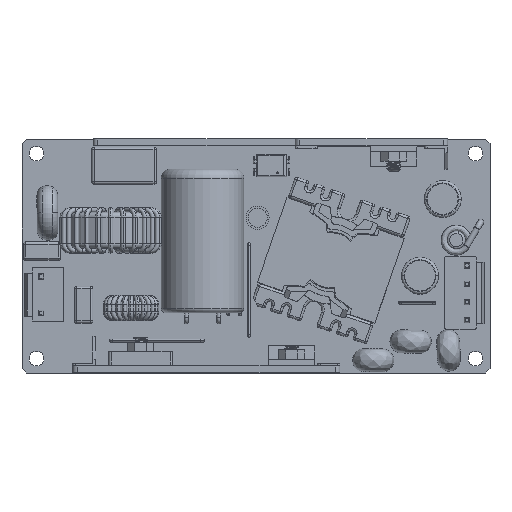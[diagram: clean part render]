
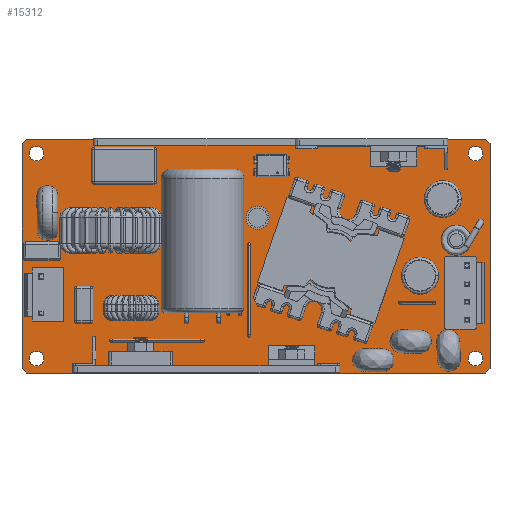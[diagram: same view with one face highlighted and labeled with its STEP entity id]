
A CAD part, top view. The second image highlights one B-rep face of the part: STEP entity #15312.
In plain terms, the highlighted planar face has unit normal (0, 0, 1).
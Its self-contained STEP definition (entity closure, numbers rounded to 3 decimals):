
#9217=LINE('',#91983,#12151);
#9218=LINE('',#91986,#12152);
#9219=LINE('',#91988,#12153);
#9220=LINE('',#91990,#12154);
#9221=LINE('',#91992,#12155);
#9222=LINE('',#91994,#12156);
#9223=LINE('',#91996,#12157);
#9224=LINE('',#91998,#12158);
#12151=VECTOR('',#64145,1.);
#12152=VECTOR('',#64146,1.);
#12153=VECTOR('',#64147,1.);
#12154=VECTOR('',#64148,1.);
#12155=VECTOR('',#64149,1.);
#12156=VECTOR('',#64150,1.);
#12157=VECTOR('',#64151,1.);
#12158=VECTOR('',#64152,1.);
#12789=FACE_BOUND('',#21255,.T.);
#12790=FACE_BOUND('',#21256,.T.);
#12791=FACE_BOUND('',#21257,.T.);
#12792=FACE_BOUND('',#21258,.T.);
#12793=FACE_BOUND('',#21259,.T.);
#15312=ADVANCED_FACE('',(#12789,#12790,#12791,#12792,#12793),#16165,.T.);
#16165=PLANE('',#50904);
#21255=EDGE_LOOP('',(#33313,#33314,#33315,#33316,#33317,#33318,#33319,#33320));
#21256=EDGE_LOOP('',(#33321,#33322));
#21257=EDGE_LOOP('',(#33323,#33324));
#21258=EDGE_LOOP('',(#33325,#33326));
#21259=EDGE_LOOP('',(#33327,#33328));
#33313=ORIENTED_EDGE('',*,*,#43055,.T.);
#33314=ORIENTED_EDGE('',*,*,#43056,.T.);
#33315=ORIENTED_EDGE('',*,*,#43057,.T.);
#33316=ORIENTED_EDGE('',*,*,#43058,.T.);
#33317=ORIENTED_EDGE('',*,*,#43059,.T.);
#33318=ORIENTED_EDGE('',*,*,#43060,.T.);
#33319=ORIENTED_EDGE('',*,*,#43061,.T.);
#33320=ORIENTED_EDGE('',*,*,#43062,.T.);
#33321=ORIENTED_EDGE('',*,*,#43063,.F.);
#33322=ORIENTED_EDGE('',*,*,#43064,.F.);
#33323=ORIENTED_EDGE('',*,*,#43065,.F.);
#33324=ORIENTED_EDGE('',*,*,#43066,.F.);
#33325=ORIENTED_EDGE('',*,*,#43067,.F.);
#33326=ORIENTED_EDGE('',*,*,#43068,.F.);
#33327=ORIENTED_EDGE('',*,*,#43069,.F.);
#33328=ORIENTED_EDGE('',*,*,#43070,.F.);
#37007=VERTEX_POINT('',#91984);
#37008=VERTEX_POINT('',#91985);
#37009=VERTEX_POINT('',#91987);
#37010=VERTEX_POINT('',#91989);
#37011=VERTEX_POINT('',#91991);
#37012=VERTEX_POINT('',#91993);
#37013=VERTEX_POINT('',#91995);
#37014=VERTEX_POINT('',#91997);
#37015=VERTEX_POINT('',#92000);
#37016=VERTEX_POINT('',#92001);
#37017=VERTEX_POINT('',#92004);
#37018=VERTEX_POINT('',#92005);
#37019=VERTEX_POINT('',#92008);
#37020=VERTEX_POINT('',#92009);
#37021=VERTEX_POINT('',#92012);
#37022=VERTEX_POINT('',#92013);
#43055=EDGE_CURVE('',#37007,#37008,#9217,.T.);
#43056=EDGE_CURVE('',#37008,#37009,#9218,.T.);
#43057=EDGE_CURVE('',#37009,#37010,#9219,.T.);
#43058=EDGE_CURVE('',#37010,#37011,#9220,.T.);
#43059=EDGE_CURVE('',#37011,#37012,#9221,.T.);
#43060=EDGE_CURVE('',#37012,#37013,#9222,.T.);
#43061=EDGE_CURVE('',#37013,#37014,#9223,.T.);
#43062=EDGE_CURVE('',#37014,#37007,#9224,.T.);
#43063=EDGE_CURVE('',#37015,#37016,#45747,.T.);
#43064=EDGE_CURVE('',#37016,#37015,#45748,.T.);
#43065=EDGE_CURVE('',#37017,#37018,#45749,.T.);
#43066=EDGE_CURVE('',#37018,#37017,#45750,.T.);
#43067=EDGE_CURVE('',#37019,#37020,#45751,.T.);
#43068=EDGE_CURVE('',#37020,#37019,#45752,.T.);
#43069=EDGE_CURVE('',#37021,#37022,#45753,.T.);
#43070=EDGE_CURVE('',#37022,#37021,#45754,.T.);
#45747=CIRCLE('',#50896,1.6);
#45748=CIRCLE('',#50897,1.6);
#45749=CIRCLE('',#50898,1.6);
#45750=CIRCLE('',#50899,1.6);
#45751=CIRCLE('',#50900,1.6);
#45752=CIRCLE('',#50901,1.6);
#45753=CIRCLE('',#50902,1.6);
#45754=CIRCLE('',#50903,1.6);
#50896=AXIS2_PLACEMENT_3D('',#91999,#64153,#64154);
#50897=AXIS2_PLACEMENT_3D('',#92002,#64155,#64156);
#50898=AXIS2_PLACEMENT_3D('',#92003,#64157,#64158);
#50899=AXIS2_PLACEMENT_3D('',#92006,#64159,#64160);
#50900=AXIS2_PLACEMENT_3D('',#92007,#64161,#64162);
#50901=AXIS2_PLACEMENT_3D('',#92010,#64163,#64164);
#50902=AXIS2_PLACEMENT_3D('',#92011,#64165,#64166);
#50903=AXIS2_PLACEMENT_3D('',#92014,#64167,#64168);
#50904=AXIS2_PLACEMENT_3D('',#92015,#64169,#64170);
#64145=DIRECTION('',(0.,1.,0.));
#64146=DIRECTION('',(-0.707,0.707,0.));
#64147=DIRECTION('',(-1.,0.,0.));
#64148=DIRECTION('',(-0.707,-0.707,0.));
#64149=DIRECTION('',(0.,-1.,0.));
#64150=DIRECTION('',(0.707,-0.707,0.));
#64151=DIRECTION('',(1.,0.,0.));
#64152=DIRECTION('',(0.707,0.707,0.));
#64153=DIRECTION('',(0.,0.,1.));
#64154=DIRECTION('',(-1.,0.,0.));
#64155=DIRECTION('',(0.,0.,1.));
#64156=DIRECTION('',(1.,0.,0.));
#64157=DIRECTION('',(0.,0.,1.));
#64158=DIRECTION('',(-1.,0.,0.));
#64159=DIRECTION('',(0.,0.,1.));
#64160=DIRECTION('',(1.,0.,0.));
#64161=DIRECTION('',(0.,0.,1.));
#64162=DIRECTION('',(-1.,0.,0.));
#64163=DIRECTION('',(0.,0.,1.));
#64164=DIRECTION('',(1.,0.,0.));
#64165=DIRECTION('',(0.,0.,1.));
#64166=DIRECTION('',(-1.,0.,0.));
#64167=DIRECTION('',(0.,0.,1.));
#64168=DIRECTION('',(1.,0.,0.));
#64169=DIRECTION('',(0.,0.,1.));
#64170=DIRECTION('',(-1.,0.,0.));
#91983=CARTESIAN_POINT('',(50.8,-24.4,0.));
#91984=CARTESIAN_POINT('',(50.8,-24.4,0.));
#91985=CARTESIAN_POINT('',(50.8,24.4,0.));
#91986=CARTESIAN_POINT('',(50.8,24.4,0.));
#91987=CARTESIAN_POINT('',(49.8,25.4,0.));
#91988=CARTESIAN_POINT('',(49.8,25.4,0.));
#91989=CARTESIAN_POINT('',(-49.8,25.4,0.));
#91990=CARTESIAN_POINT('',(-49.8,25.4,0.));
#91991=CARTESIAN_POINT('',(-50.8,24.4,0.));
#91992=CARTESIAN_POINT('',(-50.8,24.4,0.));
#91993=CARTESIAN_POINT('',(-50.8,-24.4,0.));
#91994=CARTESIAN_POINT('',(-50.8,-24.4,0.));
#91995=CARTESIAN_POINT('',(-49.8,-25.4,0.));
#91996=CARTESIAN_POINT('',(-49.8,-25.4,0.));
#91997=CARTESIAN_POINT('',(49.8,-25.4,0.));
#91998=CARTESIAN_POINT('',(49.8,-25.4,0.));
#91999=CARTESIAN_POINT('',(-47.65,22.25,0.));
#92000=CARTESIAN_POINT('',(-49.25,22.25,0.));
#92001=CARTESIAN_POINT('',(-46.05,22.25,0.));
#92002=CARTESIAN_POINT('',(-47.65,22.25,0.));
#92003=CARTESIAN_POINT('',(-47.65,-22.25,0.));
#92004=CARTESIAN_POINT('',(-49.25,-22.25,0.));
#92005=CARTESIAN_POINT('',(-46.05,-22.25,0.));
#92006=CARTESIAN_POINT('',(-47.65,-22.25,0.));
#92007=CARTESIAN_POINT('',(47.65,-22.25,0.));
#92008=CARTESIAN_POINT('',(46.05,-22.25,0.));
#92009=CARTESIAN_POINT('',(49.25,-22.25,0.));
#92010=CARTESIAN_POINT('',(47.65,-22.25,0.));
#92011=CARTESIAN_POINT('',(47.65,22.25,0.));
#92012=CARTESIAN_POINT('',(46.05,22.25,0.));
#92013=CARTESIAN_POINT('',(49.25,22.25,0.));
#92014=CARTESIAN_POINT('',(47.65,22.25,0.));
#92015=CARTESIAN_POINT('',(0.,0.,0.));
